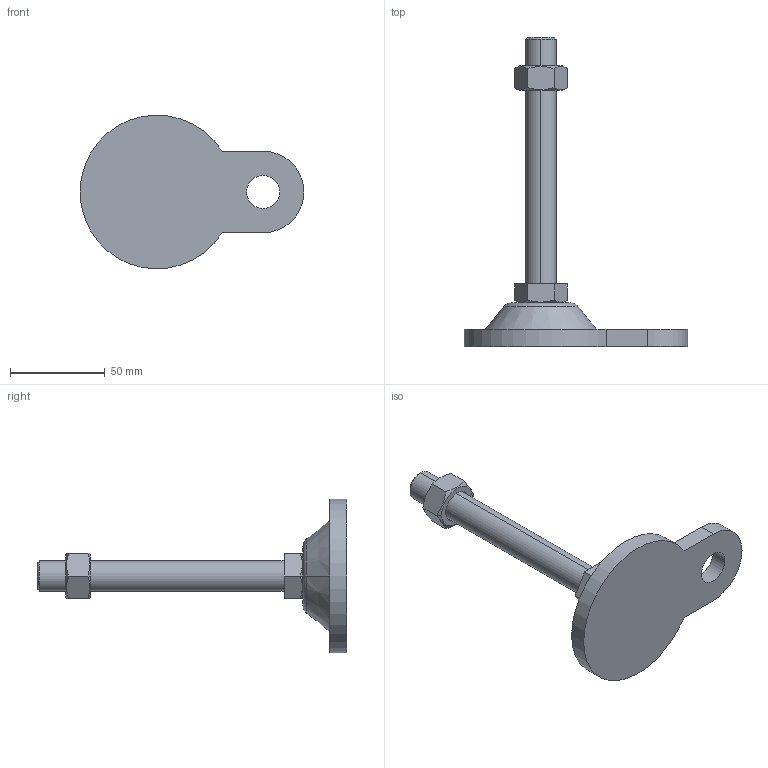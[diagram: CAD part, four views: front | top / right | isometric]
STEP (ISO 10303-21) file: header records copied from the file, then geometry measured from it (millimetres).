
FILE_DESCRIPTION (( 'STEP AP214' ), '1' );
FILE_NAME ('ARB81-M16-130.step', '2021-01-07T07:17:13', ( '' ), ( '' ), 'SwSTEP 2.0', 'SolidWorks 2019', '' );
FILE_SCHEMA (( 'AUTOMOTIVE_DESIGN' ));
Length unit declared in the file: millimetre
Products named in the file (1): ARB81-M16-130
Bounding box: 118 x 163 x 80.98 mm (x, y, z)
Volume: 117493 mm3; surface area: 27606.3 mm2
Topology: 3 solids, 3 shells, 46 faces, 100 edges, 62 vertices
Faces by surface type: plane 22, cone 14, cylinder 8, torus 2
Entity records: 1470 total; most frequent: CARTESIAN_POINT 407, DIRECTION 212, ORIENTED_EDGE 200, EDGE_CURVE 100, AXIS2_PLACEMENT_3D 83, VERTEX_POINT 62, EDGE_LOOP 52, LINE 46
